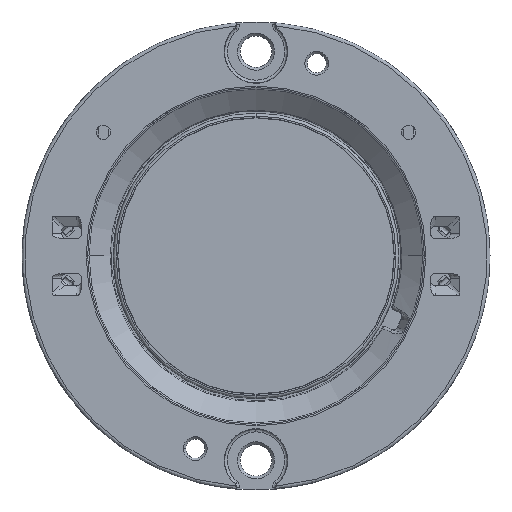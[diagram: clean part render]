
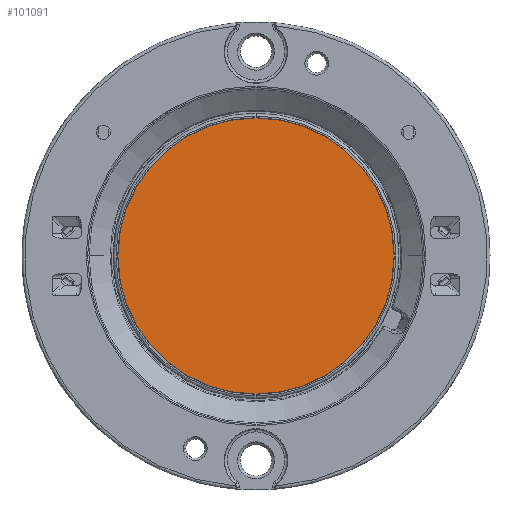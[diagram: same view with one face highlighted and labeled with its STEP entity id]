
A CAD part, top view. The second image highlights one B-rep face of the part: STEP entity #101091.
In plain terms, the highlighted planar face has unit normal (0, 0, 1).
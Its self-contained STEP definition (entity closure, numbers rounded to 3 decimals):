
#5862 = VERTEX_POINT ( 'NONE', #34356 ) ;
#11759 = EDGE_LOOP ( 'NONE', ( #42481, #64756 ) ) ;
#22176 = AXIS2_PLACEMENT_3D ( 'NONE', #103415, #49749, #112510 ) ;
#31358 = CARTESIAN_POINT ( 'NONE',  ( 0., 0., 1.6 ) ) ;
#31949 = VERTEX_POINT ( 'NONE', #48714 ) ;
#32688 = FACE_OUTER_BOUND ( 'NONE', #11759, .T. ) ;
#32719 = CIRCLE ( 'NONE', #103363, 14.525 ) ;
#34356 = CARTESIAN_POINT ( 'NONE',  ( 0., -14.525, 1.6 ) ) ;
#34788 = CARTESIAN_POINT ( 'NONE',  ( 0., 0., 1.6 ) ) ;
#34891 = AXIS2_PLACEMENT_3D ( 'NONE', #31358, #94003, #40379 ) ;
#40379 = DIRECTION ( 'NONE',  ( 0., -1., 0. ) ) ;
#42481 = ORIENTED_EDGE ( 'NONE', *, *, #64945, .T. ) ;
#43828 = DIRECTION ( 'NONE',  ( 0., -1., 0. ) ) ;
#48714 = CARTESIAN_POINT ( 'NONE',  ( 0., 14.525, 1.6 ) ) ;
#48801 = EDGE_CURVE ( 'NONE', #5862, #31949, #32719, .T. ) ;
#49749 = DIRECTION ( 'NONE',  ( 0., 0., 1. ) ) ;
#57878 = CIRCLE ( 'NONE', #22176, 14.525 ) ;
#64756 = ORIENTED_EDGE ( 'NONE', *, *, #48801, .T. ) ;
#64945 = EDGE_CURVE ( 'NONE', #31949, #5862, #57878, .T. ) ;
#94003 = DIRECTION ( 'NONE',  ( 0., 0., 1. ) ) ;
#97490 = DIRECTION ( 'NONE',  ( 0., 0., 1. ) ) ;
#101091 = ADVANCED_FACE ( 'NONE', ( #32688 ), #111741, .T. ) ;
#103363 = AXIS2_PLACEMENT_3D ( 'NONE', #34788, #97490, #43828 ) ;
#103415 = CARTESIAN_POINT ( 'NONE',  ( 0., 0., 1.6 ) ) ;
#111741 = PLANE ( 'NONE',  #34891 ) ;
#112510 = DIRECTION ( 'NONE',  ( 0., -1., 0. ) ) ;
